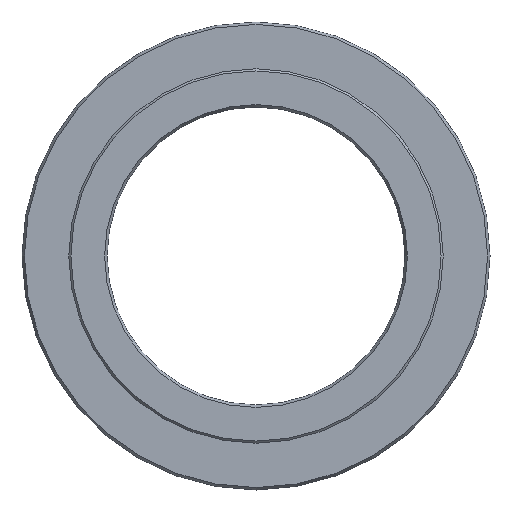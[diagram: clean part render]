
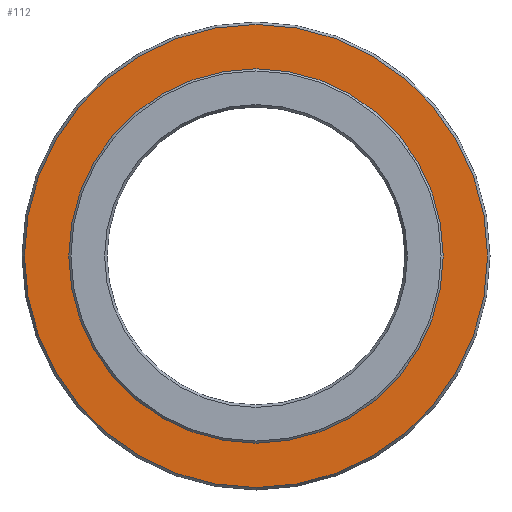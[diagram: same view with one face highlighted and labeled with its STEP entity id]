
A CAD part, left-side view. The second image highlights one B-rep face of the part: STEP entity #112.
In plain terms, the highlighted planar face has unit normal (-1, 0, 0).
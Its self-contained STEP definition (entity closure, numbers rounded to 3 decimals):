
#107=PLANE('',#279);
#112=ADVANCED_FACE('',(#131,#132),#107,.T.);
#131=FACE_BOUND('',#163,.T.);
#132=FACE_BOUND('',#164,.T.);
#163=EDGE_LOOP('',(#195));
#164=EDGE_LOOP('',(#196));
#195=ORIENTED_EDGE('',*,*,#243,.T.);
#196=ORIENTED_EDGE('',*,*,#244,.T.);
#227=VERTEX_POINT('',#379);
#228=VERTEX_POINT('',#381);
#243=EDGE_CURVE('',#227,#227,#259,.T.);
#244=EDGE_CURVE('',#228,#228,#260,.T.);
#259=CIRCLE('',#277,54.423);
#260=CIRCLE('',#278,44.);
#277=AXIS2_PLACEMENT_3D('',#378,#314,#315);
#278=AXIS2_PLACEMENT_3D('',#380,#316,#317);
#279=AXIS2_PLACEMENT_3D('',#382,#318,#319);
#314=DIRECTION('',(-1.,0.,0.));
#315=DIRECTION('',(0.,0.,1.));
#316=DIRECTION('',(1.,0.,0.));
#317=DIRECTION('',(0.,0.,-1.));
#318=DIRECTION('',(-1.,0.,0.));
#319=DIRECTION('',(0.,0.,1.));
#378=CARTESIAN_POINT('',(0.,0.,0.));
#379=CARTESIAN_POINT('',(0.,0.,54.423));
#380=CARTESIAN_POINT('',(0.,0.,0.));
#381=CARTESIAN_POINT('',(0.,0.,-44.));
#382=CARTESIAN_POINT('',(0.,55.,0.));
